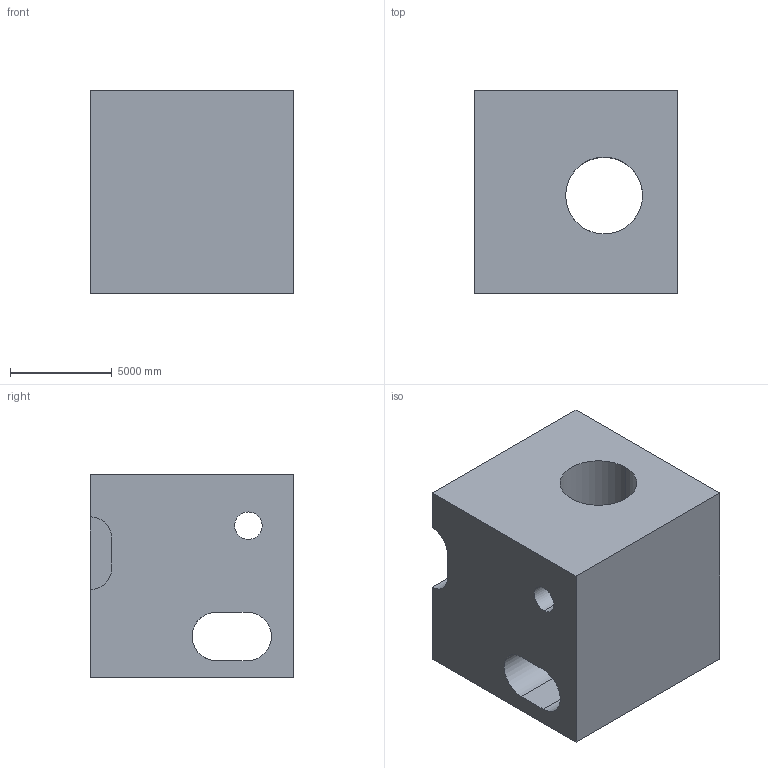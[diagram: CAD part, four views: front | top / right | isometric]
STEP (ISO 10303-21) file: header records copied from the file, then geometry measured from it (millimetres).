
FILE_DESCRIPTION (( 'STEP AP203' ), '1' );
FILE_NAME ('136.STEP', '2022-09-06T15:10:52', ( 'user' ), ( '' ), 'SwSTEP 2.0', 'SolidWorks 2021', '' );
FILE_SCHEMA (( 'CONFIG_CONTROL_DESIGN' ));
Length unit declared in the file: centimetre
Products named in the file (1): 136
Bounding box: 10000 x 10000 x 10000 mm (x, y, z)
Volume: 778064489951.7 mm3; surface area: 803406901.4 mm2
Topology: 1 solids, 1 shells, 20 faces, 60 edges, 40 vertices
Faces by surface type: cylinder 10, plane 10
Entity records: 1047 total; most frequent: CARTESIAN_POINT 405, ORIENTED_EDGE 120, DIRECTION 114, EDGE_CURVE 60, VERTEX_POINT 40, AXIS2_PLACEMENT_3D 39, VECTOR 36, LINE 36
